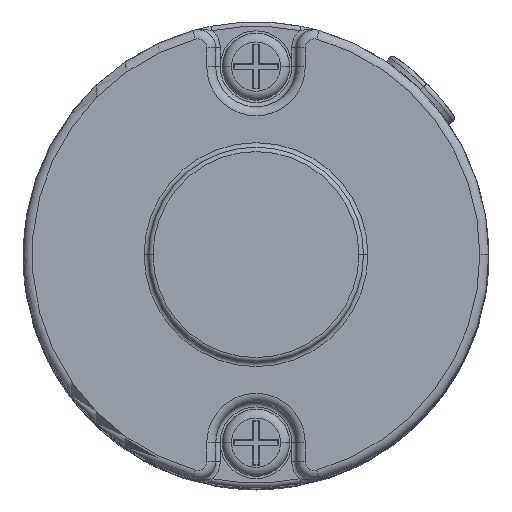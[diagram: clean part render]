
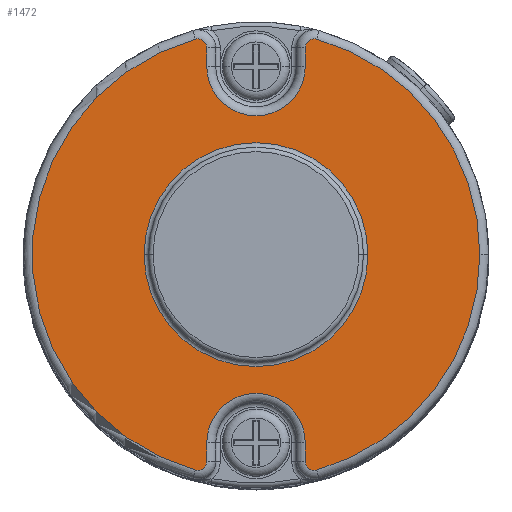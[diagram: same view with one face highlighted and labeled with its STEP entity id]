
A CAD part, top view. The second image highlights one B-rep face of the part: STEP entity #1472.
In plain terms, the highlighted planar face has unit normal (0, 0, 1).
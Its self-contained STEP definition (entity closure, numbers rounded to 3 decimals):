
#17 = CARTESIAN_POINT ( 'NONE',  ( 5.5, 21., 13. ) ) ;
#64 = CARTESIAN_POINT ( 'NONE',  ( -5.5, -23.103, 13. ) ) ;
#101 = CARTESIAN_POINT ( 'NONE',  ( -5.5, -21., 13. ) ) ;
#118 = DIRECTION ( 'NONE',  ( 0., 0., 1. ) ) ;
#181 = DIRECTION ( 'NONE',  ( 0., 0., -1. ) ) ;
#213 = EDGE_CURVE ( 'NONE', #5020, #2546, #2621, .T. ) ;
#445 = AXIS2_PLACEMENT_3D ( 'NONE', #8847, #6715, #5739 ) ;
#536 = ORIENTED_EDGE ( 'NONE', *, *, #3063, .T. ) ;
#668 = CARTESIAN_POINT ( 'NONE',  ( 5.5, 21., 13. ) ) ;
#714 = AXIS2_PLACEMENT_3D ( 'NONE', #3955, #8383, #4870 ) ;
#718 = AXIS2_PLACEMENT_3D ( 'NONE', #4294, #6442, #4978 ) ;
#769 = EDGE_CURVE ( 'NONE', #7995, #3094, #8996, .T. ) ;
#786 = ORIENTED_EDGE ( 'NONE', *, *, #7071, .T. ) ;
#864 = CARTESIAN_POINT ( 'NONE',  ( 0., 0., 13. ) ) ;
#1001 = DIRECTION ( 'NONE',  ( 0., 1., 0. ) ) ;
#1095 = EDGE_CURVE ( 'NONE', #7830, #8989, #8231, .T. ) ;
#1147 = VERTEX_POINT ( 'NONE', #4431 ) ;
#1188 = CIRCLE ( 'NONE', #7380, 12.5 ) ;
#1189 = CIRCLE ( 'NONE', #1964, 1. ) ;
#1231 = DIRECTION ( 'NONE',  ( 1., 0., 0. ) ) ;
#1276 = DIRECTION ( 'NONE',  ( 1., 0., 0. ) ) ;
#1379 = CIRCLE ( 'NONE', #6797, 5.5 ) ;
#1384 = EDGE_CURVE ( 'NONE', #3094, #5704, #1379, .T. ) ;
#1472 = ADVANCED_FACE ( 'NONE', ( #8171, #7343 ), #2163, .T. ) ;
#1504 = DIRECTION ( 'NONE',  ( 1., 0., 0. ) ) ;
#1607 = AXIS2_PLACEMENT_3D ( 'NONE', #6402, #8629, #1276 ) ;
#1862 = CARTESIAN_POINT ( 'NONE',  ( 6.771, -24.066, 13. ) ) ;
#1937 = EDGE_CURVE ( 'NONE', #4456, #3311, #2632, .T. ) ;
#1964 = AXIS2_PLACEMENT_3D ( 'NONE', #1966, #7094, #3589 ) ;
#1966 = CARTESIAN_POINT ( 'NONE',  ( 6.5, 23.103, 13. ) ) ;
#2031 = AXIS2_PLACEMENT_3D ( 'NONE', #7265, #8086, #5215 ) ;
#2080 = CARTESIAN_POINT ( 'NONE',  ( -5.5, 23.103, 13. ) ) ;
#2163 = PLANE ( 'NONE',  #445 ) ;
#2175 = DIRECTION ( 'NONE',  ( 0., 0., 1. ) ) ;
#2177 = EDGE_LOOP ( 'NONE', ( #3594, #8500 ) ) ;
#2352 = CIRCLE ( 'NONE', #3571, 12.5 ) ;
#2481 = CARTESIAN_POINT ( 'NONE',  ( -6.771, -24.066, 13. ) ) ;
#2546 = VERTEX_POINT ( 'NONE', #7820 ) ;
#2621 = CIRCLE ( 'NONE', #7431, 1. ) ;
#2632 = CIRCLE ( 'NONE', #3548, 25. ) ;
#2740 = DIRECTION ( 'NONE',  ( 0., -1., 0. ) ) ;
#2809 = LINE ( 'NONE', #8573, #2818 ) ;
#2818 = VECTOR ( 'NONE', #4935, 1000. ) ;
#2933 = EDGE_CURVE ( 'NONE', #1147, #3866, #2352, .T. ) ;
#3048 = AXIS2_PLACEMENT_3D ( 'NONE', #5193, #118, #5341 ) ;
#3059 = EDGE_CURVE ( 'NONE', #5704, #6818, #2809, .T. ) ;
#3063 = EDGE_CURVE ( 'NONE', #3311, #3562, #4522, .T. ) ;
#3094 = VERTEX_POINT ( 'NONE', #101 ) ;
#3311 = VERTEX_POINT ( 'NONE', #7628 ) ;
#3324 = VERTEX_POINT ( 'NONE', #2481 ) ;
#3406 = CARTESIAN_POINT ( 'NONE',  ( 0., -21., 13. ) ) ;
#3449 = ORIENTED_EDGE ( 'NONE', *, *, #1937, .T. ) ;
#3548 = AXIS2_PLACEMENT_3D ( 'NONE', #5905, #3659, #1504 ) ;
#3562 = VERTEX_POINT ( 'NONE', #8886 ) ;
#3571 = AXIS2_PLACEMENT_3D ( 'NONE', #864, #181, #3749 ) ;
#3589 = DIRECTION ( 'NONE',  ( 1., 0., 0. ) ) ;
#3594 = ORIENTED_EDGE ( 'NONE', *, *, #8168, .T. ) ;
#3659 = DIRECTION ( 'NONE',  ( 0., 0., 1. ) ) ;
#3749 = DIRECTION ( 'NONE',  ( 1., 0., 0. ) ) ;
#3866 = VERTEX_POINT ( 'NONE', #4350 ) ;
#3955 = CARTESIAN_POINT ( 'NONE',  ( 0., 0., 13. ) ) ;
#4051 = CARTESIAN_POINT ( 'NONE',  ( 5.5, -21., 13. ) ) ;
#4081 = DIRECTION ( 'NONE',  ( 1., 0., 0. ) ) ;
#4102 = ORIENTED_EDGE ( 'NONE', *, *, #213, .T. ) ;
#4140 = CARTESIAN_POINT ( 'NONE',  ( 5.5, 23.103, 13. ) ) ;
#4294 = CARTESIAN_POINT ( 'NONE',  ( -6.5, -23.103, 13. ) ) ;
#4350 = CARTESIAN_POINT ( 'NONE',  ( 12.5, 0., 13. ) ) ;
#4431 = CARTESIAN_POINT ( 'NONE',  ( -12.5, 0., 13. ) ) ;
#4456 = VERTEX_POINT ( 'NONE', #1862 ) ;
#4492 = CARTESIAN_POINT ( 'NONE',  ( 5.5, -23.103, 13. ) ) ;
#4522 = CIRCLE ( 'NONE', #1607, 25. ) ;
#4713 = EDGE_CURVE ( 'NONE', #3324, #7995, #5032, .T. ) ;
#4842 = CARTESIAN_POINT ( 'NONE',  ( 0., 0., 13. ) ) ;
#4870 = DIRECTION ( 'NONE',  ( 1., 0., 0. ) ) ;
#4935 = DIRECTION ( 'NONE',  ( 0., -1., 0. ) ) ;
#4978 = DIRECTION ( 'NONE',  ( 1., 0., 0. ) ) ;
#5020 = VERTEX_POINT ( 'NONE', #8468 ) ;
#5032 = CIRCLE ( 'NONE', #718, 1. ) ;
#5043 = CIRCLE ( 'NONE', #3048, 1. ) ;
#5193 = CARTESIAN_POINT ( 'NONE',  ( 6.5, -23.103, 13. ) ) ;
#5215 = DIRECTION ( 'NONE',  ( 1., 0., 0. ) ) ;
#5262 = CARTESIAN_POINT ( 'NONE',  ( -6.5, 23.103, 13. ) ) ;
#5341 = DIRECTION ( 'NONE',  ( 1., 0., 0. ) ) ;
#5508 = VECTOR ( 'NONE', #8717, 1000. ) ;
#5704 = VERTEX_POINT ( 'NONE', #4051 ) ;
#5739 = DIRECTION ( 'NONE',  ( 1., 0., 0. ) ) ;
#5905 = CARTESIAN_POINT ( 'NONE',  ( 0., 0., 13. ) ) ;
#6035 = CARTESIAN_POINT ( 'NONE',  ( -5.5, -21., 13. ) ) ;
#6242 = ORIENTED_EDGE ( 'NONE', *, *, #7330, .T. ) ;
#6248 = EDGE_LOOP ( 'NONE', ( #7506, #9221, #3449, #536, #6242, #786, #6724, #6671, #4102, #7119, #8724, #8272, #8247 ) ) ;
#6402 = CARTESIAN_POINT ( 'NONE',  ( 0., 0., 13. ) ) ;
#6442 = DIRECTION ( 'NONE',  ( 0., 0., 1. ) ) ;
#6521 = EDGE_CURVE ( 'NONE', #8989, #5020, #7366, .T. ) ;
#6671 = ORIENTED_EDGE ( 'NONE', *, *, #6521, .T. ) ;
#6715 = DIRECTION ( 'NONE',  ( 0., 0., 1. ) ) ;
#6724 = ORIENTED_EDGE ( 'NONE', *, *, #1095, .T. ) ;
#6797 = AXIS2_PLACEMENT_3D ( 'NONE', #3406, #7782, #4081 ) ;
#6806 = CARTESIAN_POINT ( 'NONE',  ( -5.5, 21., 13. ) ) ;
#6818 = VERTEX_POINT ( 'NONE', #4492 ) ;
#6859 = VERTEX_POINT ( 'NONE', #4140 ) ;
#6867 = EDGE_CURVE ( 'NONE', #2546, #3324, #7050, .T. ) ;
#7050 = CIRCLE ( 'NONE', #714, 25. ) ;
#7071 = EDGE_CURVE ( 'NONE', #6859, #7830, #8034, .T. ) ;
#7094 = DIRECTION ( 'NONE',  ( 0., 0., 1. ) ) ;
#7119 = ORIENTED_EDGE ( 'NONE', *, *, #6867, .T. ) ;
#7265 = CARTESIAN_POINT ( 'NONE',  ( 0., 21., 13. ) ) ;
#7330 = EDGE_CURVE ( 'NONE', #3562, #6859, #1189, .T. ) ;
#7343 = FACE_OUTER_BOUND ( 'NONE', #6248, .T. ) ;
#7366 = LINE ( 'NONE', #2080, #5508 ) ;
#7380 = AXIS2_PLACEMENT_3D ( 'NONE', #4842, #7811, #1231 ) ;
#7431 = AXIS2_PLACEMENT_3D ( 'NONE', #5262, #2175, #9582 ) ;
#7440 = EDGE_CURVE ( 'NONE', #6818, #4456, #5043, .T. ) ;
#7506 = ORIENTED_EDGE ( 'NONE', *, *, #3059, .T. ) ;
#7628 = CARTESIAN_POINT ( 'NONE',  ( 25., 0., 13. ) ) ;
#7782 = DIRECTION ( 'NONE',  ( 0., 0., -1. ) ) ;
#7811 = DIRECTION ( 'NONE',  ( 0., 0., -1. ) ) ;
#7820 = CARTESIAN_POINT ( 'NONE',  ( -6.771, 24.066, 13. ) ) ;
#7830 = VERTEX_POINT ( 'NONE', #17 ) ;
#7995 = VERTEX_POINT ( 'NONE', #64 ) ;
#8034 = LINE ( 'NONE', #668, #8599 ) ;
#8086 = DIRECTION ( 'NONE',  ( 0., 0., -1. ) ) ;
#8168 = EDGE_CURVE ( 'NONE', #3866, #1147, #1188, .T. ) ;
#8171 = FACE_BOUND ( 'NONE', #2177, .T. ) ;
#8220 = VECTOR ( 'NONE', #1001, 1000. ) ;
#8231 = CIRCLE ( 'NONE', #2031, 5.5 ) ;
#8247 = ORIENTED_EDGE ( 'NONE', *, *, #1384, .T. ) ;
#8272 = ORIENTED_EDGE ( 'NONE', *, *, #769, .T. ) ;
#8383 = DIRECTION ( 'NONE',  ( 0., 0., 1. ) ) ;
#8468 = CARTESIAN_POINT ( 'NONE',  ( -5.5, 23.103, 13. ) ) ;
#8500 = ORIENTED_EDGE ( 'NONE', *, *, #2933, .T. ) ;
#8573 = CARTESIAN_POINT ( 'NONE',  ( 5.5, -23.103, 13. ) ) ;
#8599 = VECTOR ( 'NONE', #2740, 1000. ) ;
#8629 = DIRECTION ( 'NONE',  ( 0., 0., 1. ) ) ;
#8717 = DIRECTION ( 'NONE',  ( 0., 1., 0. ) ) ;
#8724 = ORIENTED_EDGE ( 'NONE', *, *, #4713, .T. ) ;
#8847 = CARTESIAN_POINT ( 'NONE',  ( 0., 0., 13. ) ) ;
#8886 = CARTESIAN_POINT ( 'NONE',  ( 6.771, 24.066, 13. ) ) ;
#8989 = VERTEX_POINT ( 'NONE', #6806 ) ;
#8996 = LINE ( 'NONE', #6035, #8220 ) ;
#9221 = ORIENTED_EDGE ( 'NONE', *, *, #7440, .T. ) ;
#9582 = DIRECTION ( 'NONE',  ( 1., 0., 0. ) ) ;
